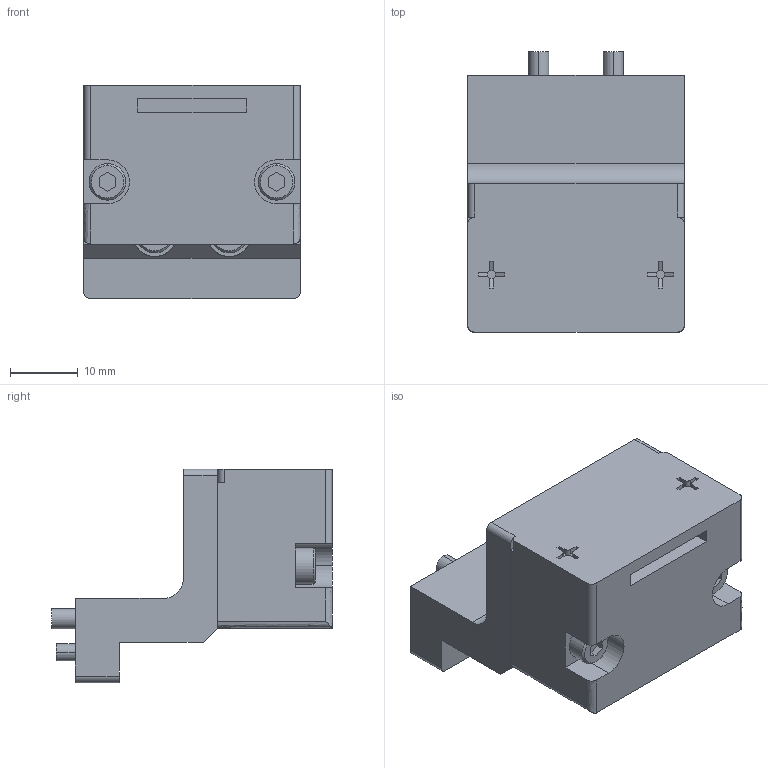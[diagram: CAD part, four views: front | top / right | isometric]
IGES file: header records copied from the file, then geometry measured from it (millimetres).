
Start section: 3D InterOp IGES (v. 2022 1.0.0), Spatial Corp. Copyright (c) 1999-2020.
Global section: file name: KHG-12RS-D28C_ver1.igs; native system: Spatial Corp.; preprocessor: 3D InterOp GENERIC/IGES 3.0; author: Noname; organization: Noname; date: 20260724.093141; units: millimetre
Bounding box: 32 x 41.5 x 31.6 mm (x, y, z)
Surface area: 8569.6 mm2 (no closed solid volume)
Topology: 0 solids, 0 shells, 337 faces, 1564 edges, 1564 vertices
Faces by surface type: extrusion 175, revolution 162
